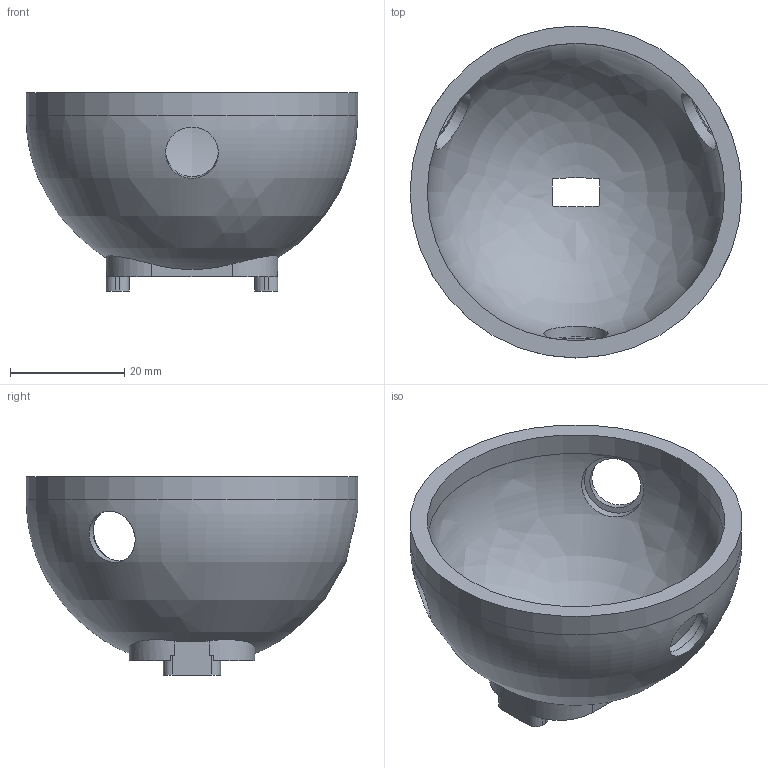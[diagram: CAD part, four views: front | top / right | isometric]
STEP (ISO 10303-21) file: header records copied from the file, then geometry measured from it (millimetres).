
FILE_DESCRIPTION(('Open CASCADE Model'),'2;1');
FILE_NAME('Open CASCADE Shape Model','2026-06-04T07:57:54',('Author'),( 'Open CASCADE'),'Open CASCADE STEP processor 7.6','Open CASCADE 7.6' ,'Unknown');
FILE_SCHEMA(('AP242_MANAGED_MODEL_BASED_3D_ENGINEERING_MIM_LF. {1 0 10303 442 1 1 4 }'));
Length unit declared in the file: millimetre
Products named in the file (1): Open CASCADE STEP translator 7.6 3
Bounding box: 58 x 58 x 34.6 mm (x, y, z)
Volume: 15858.1 mm3; surface area: 11765.2 mm2
Topology: 1 solids, 1 shells, 71 faces, 194 edges, 128 vertices
Faces by surface type: plane 35, cylinder 28, bspline 4, revolution 2, cone 2
Full cylindrical faces by diameter (mm): 2.05 x2, 9.2 x3, 11.2 x3, 52 x1, 58 x1
Entity records: 8006 total; most frequent: CARTESIAN_POINT 4188, DIRECTION 702, ORIENTED_EDGE 384, PCURVE 384, DEFINITIONAL_REPRESENTATION 384, LINE 382, VECTOR 382, EDGE_CURVE 192
